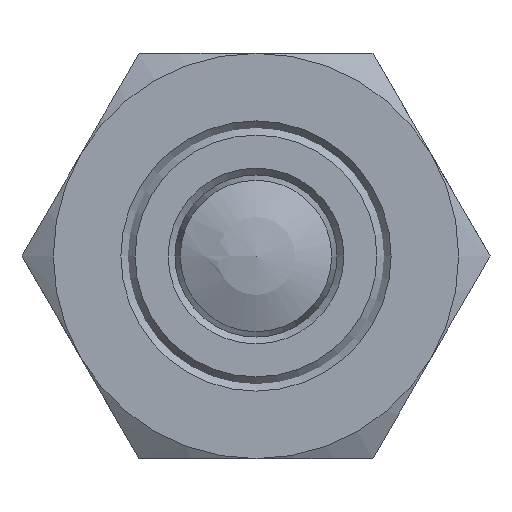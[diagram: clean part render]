
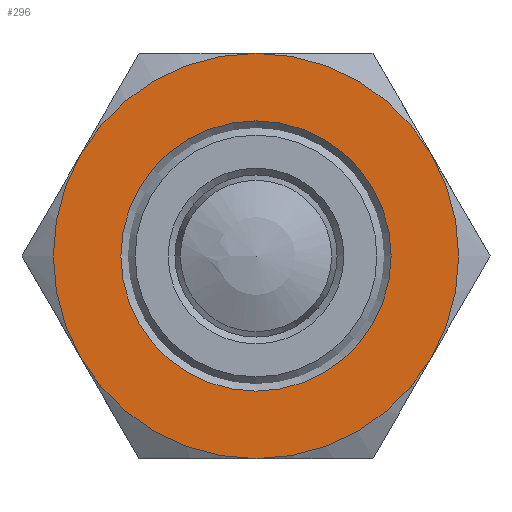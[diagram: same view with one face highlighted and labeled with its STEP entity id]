
A CAD part, front view. The second image highlights one B-rep face of the part: STEP entity #296.
In plain terms, the highlighted planar face has unit normal (0, -1, 0).
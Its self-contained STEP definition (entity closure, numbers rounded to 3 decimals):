
#296 = ADVANCED_FACE( '', ( #437, #438 ), #439, .F. );
#437 = FACE_BOUND( '', #581, .T. );
#438 = FACE_OUTER_BOUND( '', #582, .T. );
#439 = PLANE( '', #583 );
#581 = EDGE_LOOP( '', ( #913 ) );
#582 = EDGE_LOOP( '', ( #914, #915, #916, #917, #918, #919 ) );
#583 = AXIS2_PLACEMENT_3D( '', #920, #921, #922 );
#913 = ORIENTED_EDGE( '', *, *, #1020, .F. );
#914 = ORIENTED_EDGE( '', *, *, #1023, .T. );
#915 = ORIENTED_EDGE( '', *, *, #1024, .T. );
#916 = ORIENTED_EDGE( '', *, *, #990, .T. );
#917 = ORIENTED_EDGE( '', *, *, #1015, .T. );
#918 = ORIENTED_EDGE( '', *, *, #1016, .T. );
#919 = ORIENTED_EDGE( '', *, *, #1017, .T. );
#920 = CARTESIAN_POINT( '', ( 15., 0., 0. ) );
#921 = DIRECTION( '', ( 0., 1., 0. ) );
#922 = DIRECTION( '', ( 0., 0., 1. ) );
#990 = EDGE_CURVE( '', #1126, #1127, #1128, .T. );
#1015 = EDGE_CURVE( '', #1127, #1108, #1165, .T. );
#1016 = EDGE_CURVE( '', #1108, #1120, #1166, .T. );
#1017 = EDGE_CURVE( '', #1120, #1167, #1168, .T. );
#1020 = EDGE_CURVE( '', #1171, #1171, #1172, .T. );
#1023 = EDGE_CURVE( '', #1167, #1135, #1177, .T. );
#1024 = EDGE_CURVE( '', #1135, #1126, #1178, .T. );
#1108 = VERTEX_POINT( '', #1401 );
#1120 = VERTEX_POINT( '', #1443 );
#1126 = VERTEX_POINT( '', #1473 );
#1127 = VERTEX_POINT( '', #1474 );
#1128 = CIRCLE( '', #1475, 15. );
#1135 = VERTEX_POINT( '', #1495 );
#1165 = CIRCLE( '', #1603, 15. );
#1166 = CIRCLE( '', #1604, 15. );
#1167 = VERTEX_POINT( '', #1605 );
#1168 = CIRCLE( '', #1606, 15. );
#1171 = VERTEX_POINT( '', #1621 );
#1172 = CIRCLE( '', #1622, 10. );
#1177 = CIRCLE( '', #1627, 15. );
#1178 = CIRCLE( '', #1628, 15. );
#1401 = CARTESIAN_POINT( '', ( -15., 0., 0. ) );
#1443 = CARTESIAN_POINT( '', ( -7.5, 0., -12.99 ) );
#1473 = CARTESIAN_POINT( '', ( 7.5, 0., 12.99 ) );
#1474 = CARTESIAN_POINT( '', ( -7.5, 0., 12.99 ) );
#1475 = AXIS2_PLACEMENT_3D( '', #1713, #1714, #1715 );
#1495 = CARTESIAN_POINT( '', ( 15., 0., 0. ) );
#1603 = AXIS2_PLACEMENT_3D( '', #1740, #1741, #1742 );
#1604 = AXIS2_PLACEMENT_3D( '', #1743, #1744, #1745 );
#1605 = CARTESIAN_POINT( '', ( 7.5, 0., -12.99 ) );
#1606 = AXIS2_PLACEMENT_3D( '', #1746, #1747, #1748 );
#1621 = CARTESIAN_POINT( '', ( 0., 0., -10. ) );
#1622 = AXIS2_PLACEMENT_3D( '', #1749, #1750, #1751 );
#1627 = AXIS2_PLACEMENT_3D( '', #1758, #1759, #1760 );
#1628 = AXIS2_PLACEMENT_3D( '', #1761, #1762, #1763 );
#1713 = CARTESIAN_POINT( '', ( 0., 0., 0. ) );
#1714 = DIRECTION( '', ( 0., -1., 0. ) );
#1715 = DIRECTION( '', ( 0., 0., -1. ) );
#1740 = CARTESIAN_POINT( '', ( 0., 0., 0. ) );
#1741 = DIRECTION( '', ( 0., -1., 0. ) );
#1742 = DIRECTION( '', ( 0., 0., -1. ) );
#1743 = CARTESIAN_POINT( '', ( 0., 0., 0. ) );
#1744 = DIRECTION( '', ( 0., -1., 0. ) );
#1745 = DIRECTION( '', ( 0., 0., -1. ) );
#1746 = CARTESIAN_POINT( '', ( 0., 0., 0. ) );
#1747 = DIRECTION( '', ( 0., -1., 0. ) );
#1748 = DIRECTION( '', ( 0., 0., -1. ) );
#1749 = CARTESIAN_POINT( '', ( 0., 0., 0. ) );
#1750 = DIRECTION( '', ( 0., -1., 0. ) );
#1751 = DIRECTION( '', ( 0., 0., -1. ) );
#1758 = CARTESIAN_POINT( '', ( 0., 0., 0. ) );
#1759 = DIRECTION( '', ( 0., -1., 0. ) );
#1760 = DIRECTION( '', ( 0., 0., -1. ) );
#1761 = CARTESIAN_POINT( '', ( 0., 0., 0. ) );
#1762 = DIRECTION( '', ( 0., -1., 0. ) );
#1763 = DIRECTION( '', ( 0., 0., -1. ) );
